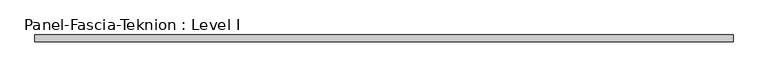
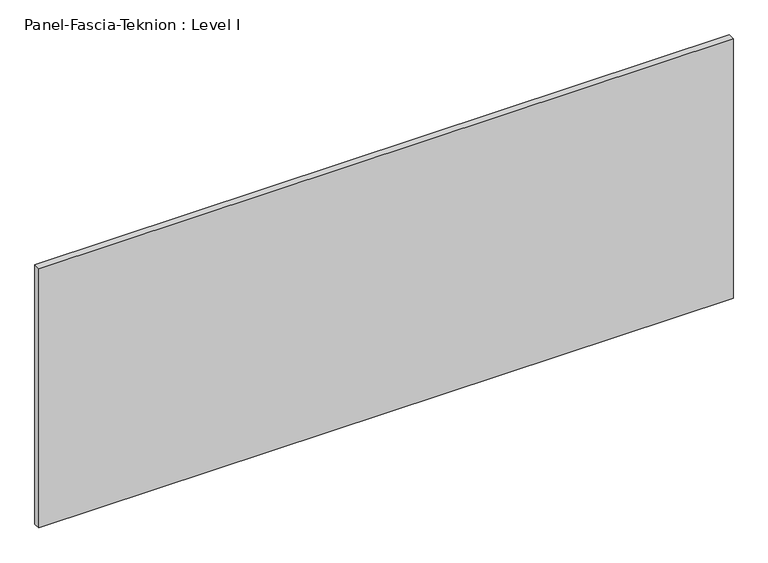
"""IFC4 building model written with IfcOpenShell, lengths in millimetres: proxy geometry, Panel-Fascia-Teknion : Level I."""

from ifc_helpers import new_model, si_unit, frame, origin, place, context, project, spatial, polyline, outline, extrude, source, transform, mapped, element, save


def panel_fascia_teknion_level_i_738fe521(model_context):
    return source(origin(), model_context, "Body", "SweptSolid", [
        extrude(outline(polyline([(962.6147563, 9.525), (962.6147563, -9.525), (-962.6147562, -9.525), (-962.6147562, 9.525), (962.6147563, 9.525)])), frame((0.0, 0.0, 3.175), z_axis=(0.0, 0.0, 1.0), x_axis=(1.0, 0.0, 0.0)), (0.0, 0.0, 1.0), 759.968),
    ])


if __name__ == "__main__":
    model = new_model("IFC4")
    model_context = context("Model", 3, world=origin())
    ifc_project = project(units=[si_unit("LENGTHUNIT", "METRE", prefix="MILLI")], contexts=[model_context])
    site = spatial("IfcSite", under=ifc_project)
    building = spatial("IfcBuilding", under=site)
    placement = place(None, origin())
    panel_fascia_teknion_level_i_shape = panel_fascia_teknion_level_i_738fe521(model_context)
    element("IfcBuildingElementProxy", 1, Name="Panel-Fascia-Teknion : Level I", ObjectType="Panel-Fascia-Teknion : Level I", at=placement, inside=building, context=model_context, shape_type="MappedRepresentation", body=[
        mapped(panel_fascia_teknion_level_i_shape, transform((0.0, 0.0, 0.0), x_axis=(1.0, 0.0, 0.0), y_axis=(0.0, 1.0, 0.0), z_axis=(0.0, 0.0, 1.0))),
    ])
    save(model, "model.ifc")
